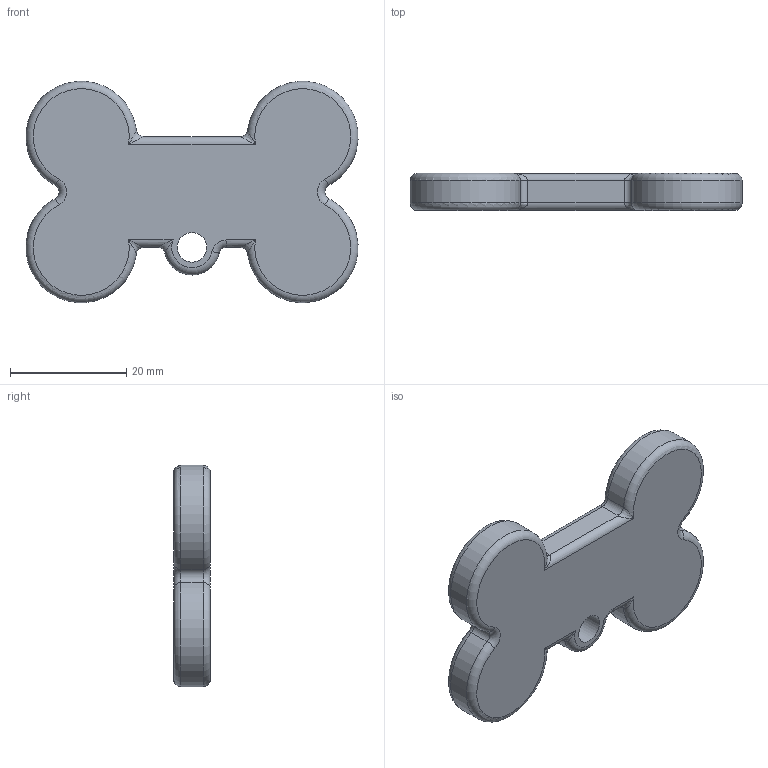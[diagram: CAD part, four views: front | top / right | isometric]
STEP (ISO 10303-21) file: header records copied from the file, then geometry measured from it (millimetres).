
FILE_DESCRIPTION(/* description */ (''),/* implementation_level */ '2;1');
FILE_NAME(/* name */ 'F:/3D Printing/Dog Tag Editable.step',/* time_stamp */ '2018-02-18T08:11:03-08:00',/* author */ ('bmartin51810'),/* organization */ (''),/* preprocessor_version */ 'ST-DEVELOPER v16.13',/* originating_system */ 'Autodesk Translation Framework v6.5.0.72',/* authorisation */ '');
FILE_SCHEMA (('AUTOMOTIVE_DESIGN { 1 0 10303 214 3 1 1 }'));
Length unit declared in the file: millimetre
Products named in the file (1): Dog Tag Knuckles
Bounding box: 57.12 x 6.35 x 38.04 mm (x, y, z)
Volume: 10028.5 mm3; surface area: 4393.3 mm2
Topology: 1 solids, 1 shells, 51 faces, 117 edges, 57 vertices
Faces by surface type: cylinder 20, torus 15, bspline 11, plane 5
Full cylindrical faces by diameter (mm): 5.08 x1
Entity records: 1940 total; most frequent: CARTESIAN_POINT 868, DIRECTION 221, ORIENTED_EDGE 212, EDGE_CURVE 106, AXIS2_PLACEMENT_3D 96, VERTEX_POINT 57, CIRCLE 55, EDGE_LOOP 53
